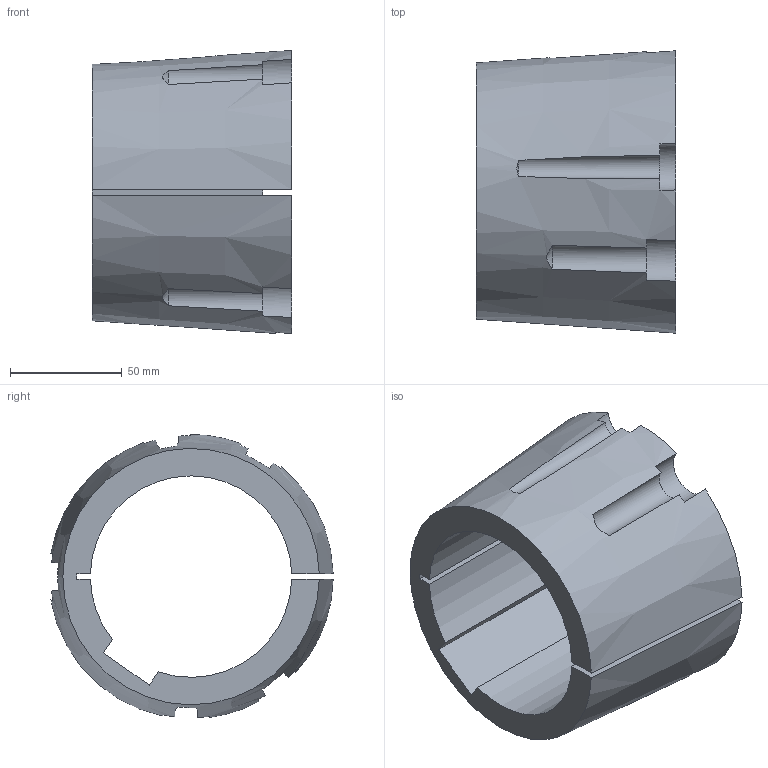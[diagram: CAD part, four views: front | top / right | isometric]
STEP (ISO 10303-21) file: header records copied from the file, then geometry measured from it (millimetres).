
FILE_DESCRIPTION( ( 'STEP AP214' ), '1' );
FILE_NAME( 'C:/Users/StangenbergN/Documents/CAD_Step/1/62251090.stp', '2019-08-18T12:21:19', ( '' ), ( '' ), ' ', 'PARTsolutions', ' ' );
FILE_SCHEMA( ( 'AUTOMOTIVE_DESIGN { 1 0 10303 214 1 1 1 1 }' ) );
Length unit declared in the file: millimetre
Products named in the file (1): _taper-spannbuchsen_62251090
Bounding box: 89 x 126.13 x 126.46 mm (x, y, z)
Volume: 413545.8 mm3; surface area: 75108.1 mm2
Topology: 1 solids, 1 shells, 36 faces, 102 edges, 68 vertices
Faces by surface type: plane 16, cylinder 14, cone 6
Entity records: 1648 total; most frequent: CARTESIAN_POINT 414, ORIENTED_EDGE 204, DIRECTION 194, EDGE_CURVE 102, AXIS2_PLACEMENT_3D 82, VERTEX_POINT 68, CIRCLE 45, STYLED_ITEM 36
